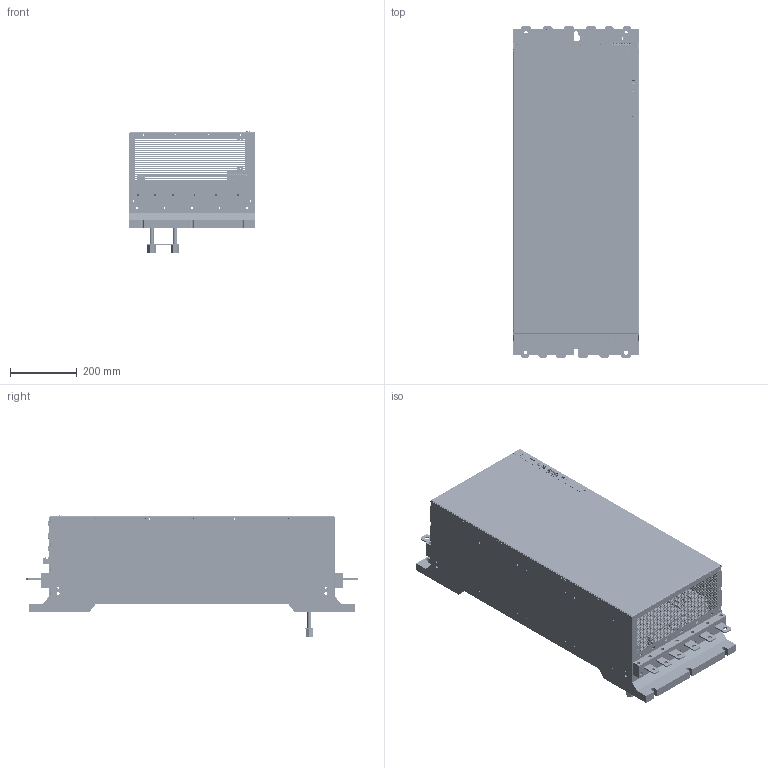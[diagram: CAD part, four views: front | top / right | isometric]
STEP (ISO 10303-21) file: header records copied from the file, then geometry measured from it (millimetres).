
FILE_DESCRIPTION(/* description */ (''),/* implementation_level */ '2;1');
FILE_NAME(/* name */ 'CB06136-001_A.stp',/* time_stamp */ '2019-03-12T11:10:53+01:00',/* author */ (''),/* organization */ (''),/* preprocessor_version */ 'ST-DEVELOPER v16',/* originating_system */ 'SIEMENS PLM Software NX 10.0',/* authorisation */ '');
FILE_SCHEMA (('AUTOMOTIVE_DESIGN { 1 0 10303 214 3 1 1 1 }'));
Products named in the file (1): CB06136-001_A
Bounding box: 380 x 995 x 362.8 mm (x, y, z)
Volume: 12893492.6 mm3; surface area: 3224187.4 mm2
Topology: 39 solids, 39 shells, 10319 faces, 28593 edges, 18541 vertices
Faces by surface type: bspline 4721, plane 3406, cylinder 1699, cone 476, torus 17
Entity records: 422436 total; most frequent: CARTESIAN_POINT 122885, ORIENTED_EDGE 56618, DIRECTION 33426, EDGE_CURVE 28309, VERTEX_POINT 18541, EDGE_LOOP 16072, LINE 15158, VECTOR 15158
